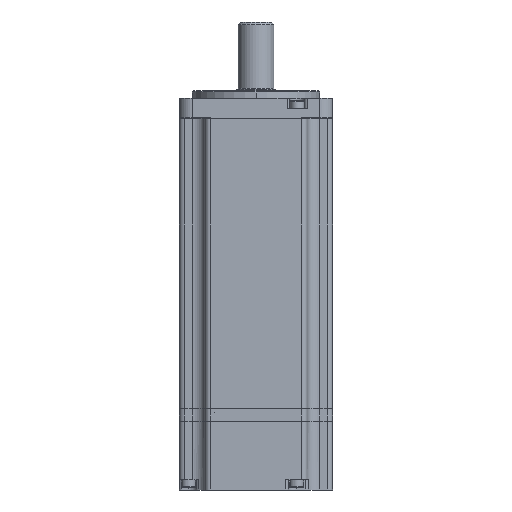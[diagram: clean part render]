
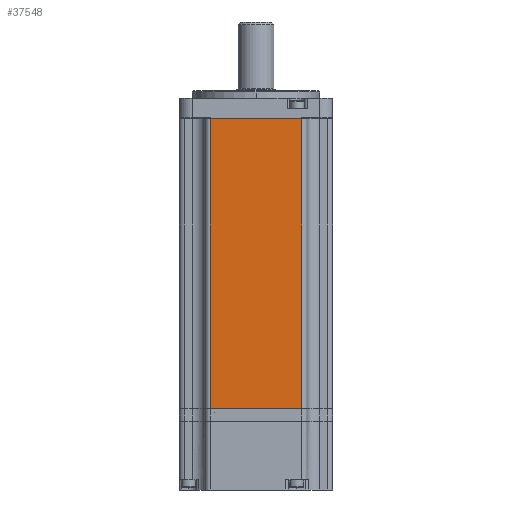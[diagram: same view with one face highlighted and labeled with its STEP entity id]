
A CAD part, front view. The second image highlights one B-rep face of the part: STEP entity #37548.
In plain terms, the highlighted planar face has unit normal (0, -1, 0).
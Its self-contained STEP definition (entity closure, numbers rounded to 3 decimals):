
#10651 = CARTESIAN_POINT ( 'NONE',  ( -18., -30.1, 114. ) ) ;
#10652 = CARTESIAN_POINT ( 'NONE',  ( 18., -30.1, 114. ) ) ;
#10658 = CARTESIAN_POINT ( 'NONE',  ( -18., -30.1, 0. ) ) ;
#10661 = CARTESIAN_POINT ( 'NONE',  ( 18., -30.1, 0. ) ) ;
#11710 = AXIS2_PLACEMENT_3D ( 'NONE', #13908, #13914, #13915 ) ;
#12541 = FACE_OUTER_BOUND ( 'NONE', #36207, .T. ) ;
#13908 = CARTESIAN_POINT ( 'NONE',  ( -20., -30.1, 114. ) ) ;
#13912 = PLANE ( 'NONE',  #11710 ) ;
#13914 = DIRECTION ( 'NONE',  ( 0., 1., 0. ) ) ;
#13915 = DIRECTION ( 'NONE',  ( 0., 0., 1. ) ) ;
#21526 = LINE ( 'NONE', #23359, #21528 ) ;
#21528 = VECTOR ( 'NONE', #23362, 1000. ) ;
#21546 = LINE ( 'NONE', #23412, #21548 ) ;
#21548 = VECTOR ( 'NONE', #23407, 1000. ) ;
#21578 = LINE ( 'NONE', #23483, #21581 ) ;
#21580 = LINE ( 'NONE', #23485, #21583 ) ;
#21581 = VECTOR ( 'NONE', #23484, 1000. ) ;
#21583 = VECTOR ( 'NONE', #23486, 1000. ) ;
#23359 = CARTESIAN_POINT ( 'NONE',  ( -20., -30.1, 114. ) ) ;
#23362 = DIRECTION ( 'NONE',  ( 1., 0., 0. ) ) ;
#23407 = DIRECTION ( 'NONE',  ( 1., 0., 0. ) ) ;
#23412 = CARTESIAN_POINT ( 'NONE',  ( -20., -30.1, 0. ) ) ;
#23483 = CARTESIAN_POINT ( 'NONE',  ( 18., -30.1, 114. ) ) ;
#23484 = DIRECTION ( 'NONE',  ( 0., 0., 1. ) ) ;
#23485 = CARTESIAN_POINT ( 'NONE',  ( -18., -30.1, 114. ) ) ;
#23486 = DIRECTION ( 'NONE',  ( 0., 0., -1. ) ) ;
#33918 = VERTEX_POINT ( 'NONE', #10651 ) ;
#33919 = VERTEX_POINT ( 'NONE', #10652 ) ;
#33925 = VERTEX_POINT ( 'NONE', #10658 ) ;
#33928 = VERTEX_POINT ( 'NONE', #10661 ) ;
#36207 = EDGE_LOOP ( 'NONE', ( #39307, #39308, #39309, #39310 ) ) ;
#37548 = ADVANCED_FACE ( 'NONE', ( #12541 ), #13912, .F. ) ;
#39307 = ORIENTED_EDGE ( 'NONE', *, *, #40200, .T. ) ;
#39308 = ORIENTED_EDGE ( 'NONE', *, *, #40221, .T. ) ;
#39309 = ORIENTED_EDGE ( 'NONE', *, *, #40185, .F. ) ;
#39310 = ORIENTED_EDGE ( 'NONE', *, *, #40222, .T. ) ;
#40185 = EDGE_CURVE ( 'NONE', #33918, #33919, #21526, .T. ) ;
#40200 = EDGE_CURVE ( 'NONE', #33925, #33928, #21546, .T. ) ;
#40221 = EDGE_CURVE ( 'NONE', #33928, #33919, #21578, .T. ) ;
#40222 = EDGE_CURVE ( 'NONE', #33918, #33925, #21580, .T. ) ;
